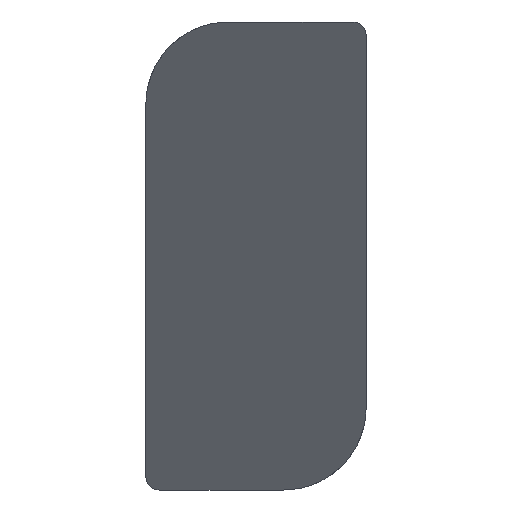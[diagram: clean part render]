
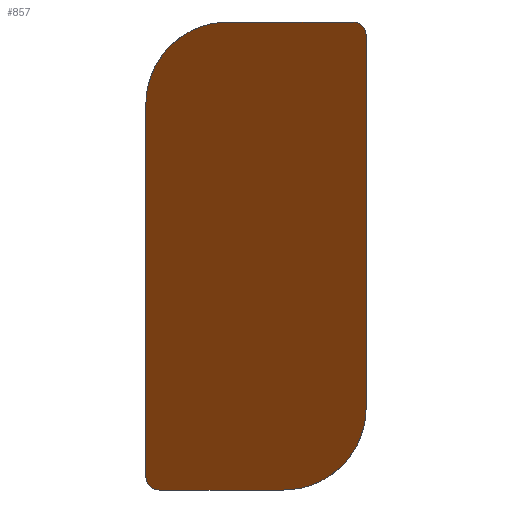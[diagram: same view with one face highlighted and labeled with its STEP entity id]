
A CAD part, left-side view. The second image highlights one B-rep face of the part: STEP entity #857.
In plain terms, the highlighted planar face has unit normal (-0.766, 0, -0.643).
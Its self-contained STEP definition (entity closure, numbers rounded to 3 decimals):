
#36 = VECTOR ( 'NONE', #746, 1000. ) ;
#48 = LINE ( 'NONE', #344, #243 ) ;
#95 = CARTESIAN_POINT ( 'NONE',  ( -10.5, 0.25, 4.25 ) ) ;
#111 =( BOUNDED_CURVE ( )  B_SPLINE_CURVE ( 3, ( #927, #839, #388, #391 ),
 .UNSPECIFIED., .F., .T. ) 
 B_SPLINE_CURVE_WITH_KNOTS ( ( 4, 4 ),
 ( 0., 1.571 ),
 .UNSPECIFIED. ) 
 CURVE ( )  GEOMETRIC_REPRESENTATION_ITEM ( )  RATIONAL_B_SPLINE_CURVE ( ( 1., 0.805, 0.805, 1. ) ) 
 REPRESENTATION_ITEM ( '' )  );
#113 = LINE ( 'NONE', #762, #732 ) ;
#132 = CARTESIAN_POINT ( 'NONE',  ( -3.368, 3.896, -4.25 ) ) ;
#147 = ORIENTED_EDGE ( 'NONE', *, *, #173, .T. ) ;
#151 = VERTEX_POINT ( 'NONE', #628 ) ;
#164 = FACE_OUTER_BOUND ( 'NONE', #353, .T. ) ;
#173 = EDGE_CURVE ( 'NONE', #704, #936, #193, .T. ) ;
#179 = CARTESIAN_POINT ( 'NONE',  ( -9.241, 4., 2.75 ) ) ;
#188 = EDGE_CURVE ( 'NONE', #936, #472, #597, .T. ) ;
#192 = DIRECTION ( 'NONE',  ( -0.643, 0., 0.766 ) ) ;
#193 =( BOUNDED_CURVE ( )  B_SPLINE_CURVE ( 3, ( #783, #403, #937, #468 ),
 .UNSPECIFIED., .F., .T. ) 
 B_SPLINE_CURVE_WITH_KNOTS ( ( 4, 4 ),
 ( 3.142, 4.712 ),
 .UNSPECIFIED. ) 
 CURVE ( )  GEOMETRIC_REPRESENTATION_ITEM ( )  RATIONAL_B_SPLINE_CURVE ( ( 1., 0.805, 0.805, 1. ) ) 
 REPRESENTATION_ITEM ( '' )  );
#201 = PLANE ( 'NONE',  #575 ) ;
#235 = LINE ( 'NONE', #901, #36 ) ;
#243 = VECTOR ( 'NONE', #192, 1000. ) ;
#261 = CARTESIAN_POINT ( 'NONE',  ( -10.5, 0.104, 4.25 ) ) ;
#272 = CARTESIAN_POINT ( 'NONE',  ( -10.5, 4., 4.25 ) ) ;
#286 = ORIENTED_EDGE ( 'NONE', *, *, #188, .T. ) ;
#328 = EDGE_CURVE ( 'NONE', #716, #402, #48, .T. ) ;
#344 = CARTESIAN_POINT ( 'NONE',  ( -10.5, 4., 4.25 ) ) ;
#353 = EDGE_LOOP ( 'NONE', ( #750, #963, #792, #147, #286, #551, #968, #420 ) ) ;
#388 = CARTESIAN_POINT ( 'NONE',  ( -9.979, 4., 3.629 ) ) ;
#391 = CARTESIAN_POINT ( 'NONE',  ( -9.241, 4., 2.75 ) ) ;
#402 = VERTEX_POINT ( 'NONE', #179 ) ;
#403 = CARTESIAN_POINT ( 'NONE',  ( -3.368, 0.621, -4.25 ) ) ;
#415 = CARTESIAN_POINT ( 'NONE',  ( -3.368, 1.5, -4.25 ) ) ;
#420 = ORIENTED_EDGE ( 'NONE', *, *, #629, .T. ) ;
#434 = VERTEX_POINT ( 'NONE', #95 ) ;
#452 = CARTESIAN_POINT ( 'NONE',  ( -10.5, 2.5, 4.25 ) ) ;
#468 = CARTESIAN_POINT ( 'NONE',  ( -4.626, 0., -2.75 ) ) ;
#472 = VERTEX_POINT ( 'NONE', #488 ) ;
#474 = DIRECTION ( 'NONE',  ( -0.643, 0., 0.766 ) ) ;
#488 = CARTESIAN_POINT ( 'NONE',  ( -10.29, 0., 4. ) ) ;
#533 = CARTESIAN_POINT ( 'NONE',  ( -10.29, 0., 4. ) ) ;
#550 = EDGE_CURVE ( 'NONE', #999, #434, #113, .T. ) ;
#551 = ORIENTED_EDGE ( 'NONE', *, *, #691, .T. ) ;
#569 = EDGE_CURVE ( 'NONE', #716, #151, #661, .T. ) ;
#575 = AXIS2_PLACEMENT_3D ( 'NONE', #272, #898, #583 ) ;
#576 = VECTOR ( 'NONE', #474, 1000. ) ;
#583 = DIRECTION ( 'NONE',  ( 0.643, 0., -0.766 ) ) ;
#594 = CARTESIAN_POINT ( 'NONE',  ( -3.577, 4., -4. ) ) ;
#597 = LINE ( 'NONE', #623, #576 ) ;
#608 = CARTESIAN_POINT ( 'NONE',  ( -3.368, 3.75, -4.25 ) ) ;
#623 = CARTESIAN_POINT ( 'NONE',  ( -10.5, 0., 4.25 ) ) ;
#628 = CARTESIAN_POINT ( 'NONE',  ( -3.368, 3.75, -4.25 ) ) ;
#629 = EDGE_CURVE ( 'NONE', #999, #402, #111, .T. ) ;
#652 = CARTESIAN_POINT ( 'NONE',  ( -10.5, 0.25, 4.25 ) ) ;
#661 =( BOUNDED_CURVE ( )  B_SPLINE_CURVE ( 3, ( #594, #995, #132, #608 ),
 .UNSPECIFIED., .F., .F. ) 
 B_SPLINE_CURVE_WITH_KNOTS ( ( 4, 4 ),
 ( 4.712, 6.283 ),
 .UNSPECIFIED. ) 
 CURVE ( )  GEOMETRIC_REPRESENTATION_ITEM ( )  RATIONAL_B_SPLINE_CURVE ( ( 1., 0.805, 0.805, 1. ) ) 
 REPRESENTATION_ITEM ( '' )  );
#666 = DIRECTION ( 'NONE',  ( 0., -1., 0. ) ) ;
#691 = EDGE_CURVE ( 'NONE', #472, #434, #811, .T. ) ;
#704 = VERTEX_POINT ( 'NONE', #415 ) ;
#716 = VERTEX_POINT ( 'NONE', #884 ) ;
#732 = VECTOR ( 'NONE', #666, 1000. ) ;
#746 = DIRECTION ( 'NONE',  ( 0., -1., 0. ) ) ;
#750 = ORIENTED_EDGE ( 'NONE', *, *, #328, .F. ) ;
#762 = CARTESIAN_POINT ( 'NONE',  ( -10.5, 4., 4.25 ) ) ;
#764 = CARTESIAN_POINT ( 'NONE',  ( -4.626, 0., -2.75 ) ) ;
#783 = CARTESIAN_POINT ( 'NONE',  ( -3.368, 1.5, -4.25 ) ) ;
#792 = ORIENTED_EDGE ( 'NONE', *, *, #795, .T. ) ;
#795 = EDGE_CURVE ( 'NONE', #151, #704, #235, .T. ) ;
#811 =( BOUNDED_CURVE ( )  B_SPLINE_CURVE ( 3, ( #533, #918, #261, #652 ),
 .UNSPECIFIED., .F., .T. ) 
 B_SPLINE_CURVE_WITH_KNOTS ( ( 4, 4 ),
 ( 1.571, 3.142 ),
 .UNSPECIFIED. ) 
 CURVE ( )  GEOMETRIC_REPRESENTATION_ITEM ( )  RATIONAL_B_SPLINE_CURVE ( ( 1., 0.805, 0.805, 1. ) ) 
 REPRESENTATION_ITEM ( '' )  );
#839 = CARTESIAN_POINT ( 'NONE',  ( -10.5, 3.379, 4.25 ) ) ;
#857 = ADVANCED_FACE ( 'NONE', ( #164 ), #201, .F. ) ;
#884 = CARTESIAN_POINT ( 'NONE',  ( -3.577, 4., -4. ) ) ;
#898 = DIRECTION ( 'NONE',  ( 0.766, 0., 0.643 ) ) ;
#901 = CARTESIAN_POINT ( 'NONE',  ( -3.368, 4., -4.25 ) ) ;
#918 = CARTESIAN_POINT ( 'NONE',  ( -10.413, 0., 4.146 ) ) ;
#927 = CARTESIAN_POINT ( 'NONE',  ( -10.5, 2.5, 4.25 ) ) ;
#936 = VERTEX_POINT ( 'NONE', #764 ) ;
#937 = CARTESIAN_POINT ( 'NONE',  ( -3.889, 0., -3.629 ) ) ;
#963 = ORIENTED_EDGE ( 'NONE', *, *, #569, .T. ) ;
#968 = ORIENTED_EDGE ( 'NONE', *, *, #550, .F. ) ;
#995 = CARTESIAN_POINT ( 'NONE',  ( -3.455, 4., -4.146 ) ) ;
#999 = VERTEX_POINT ( 'NONE', #452 ) ;
